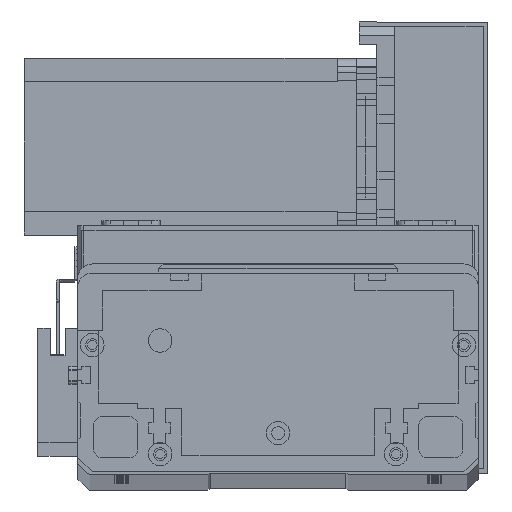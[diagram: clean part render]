
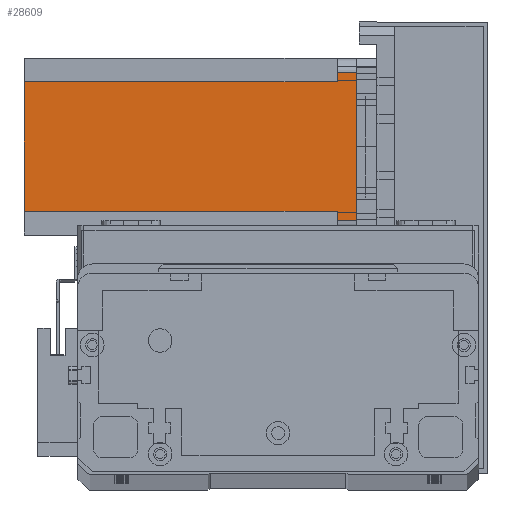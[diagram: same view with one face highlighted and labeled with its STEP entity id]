
A CAD part, top view. The second image highlights one B-rep face of the part: STEP entity #28609.
In plain terms, the highlighted planar face has unit normal (0, 0, 1) as drawn and (0, 1, 0) by its records, which use the part's own axes.
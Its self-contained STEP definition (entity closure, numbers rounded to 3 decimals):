
#491 = EDGE_CURVE ( 'NONE', #12000, #29842, #4071, .T. ) ;
#1222 = VECTOR ( 'NONE', #22207, 1000. ) ;
#1348 = EDGE_CURVE ( 'NONE', #3281, #12000, #28757, .T. ) ;
#1488 = VERTEX_POINT ( 'NONE', #13900 ) ;
#3011 = EDGE_CURVE ( 'NONE', #3281, #26812, #25737, .T. ) ;
#3281 = VERTEX_POINT ( 'NONE', #24831 ) ;
#3459 = EDGE_CURVE ( 'NONE', #26369, #26812, #26100, .T. ) ;
#3628 = ORIENTED_EDGE ( 'NONE', *, *, #18949, .F. ) ;
#3874 = LINE ( 'NONE', #18704, #8953 ) ;
#3885 = EDGE_CURVE ( 'NONE', #26369, #1488, #24250, .T. ) ;
#4015 = VECTOR ( 'NONE', #17550, 1000. ) ;
#4071 = LINE ( 'NONE', #10210, #16309 ) ;
#4588 = CARTESIAN_POINT ( 'NONE',  ( 8., 60., -6.5 ) ) ;
#4821 = ORIENTED_EDGE ( 'NONE', *, *, #30589, .T. ) ;
#5284 = EDGE_CURVE ( 'NONE', #1488, #7009, #3874, .T. ) ;
#5545 = ORIENTED_EDGE ( 'NONE', *, *, #491, .F. ) ;
#5619 = CARTESIAN_POINT ( 'NONE',  ( 52., 60., -6.5 ) ) ;
#6132 = ORIENTED_EDGE ( 'NONE', *, *, #1348, .F. ) ;
#6776 = VECTOR ( 'NONE', #30300, 1000. ) ;
#7009 = VERTEX_POINT ( 'NONE', #10713 ) ;
#7032 = ORIENTED_EDGE ( 'NONE', *, *, #3011, .T. ) ;
#7535 = ORIENTED_EDGE ( 'NONE', *, *, #3459, .F. ) ;
#7739 = EDGE_LOOP ( 'NONE', ( #3628, #4821, #5545, #6132, #7032, #7535, #7937, #8537 ) ) ;
#7937 = ORIENTED_EDGE ( 'NONE', *, *, #3885, .T. ) ;
#8060 = CARTESIAN_POINT ( 'NONE',  ( 55., 60., 0. ) ) ;
#8205 = CARTESIAN_POINT ( 'NONE',  ( 55., 60., -6.5 ) ) ;
#8537 = ORIENTED_EDGE ( 'NONE', *, *, #5284, .T. ) ;
#8953 = VECTOR ( 'NONE', #18643, 1000. ) ;
#8965 = PLANE ( 'NONE',  #30606 ) ;
#10210 = CARTESIAN_POINT ( 'NONE',  ( 52., 60., -6.5 ) ) ;
#10275 = DIRECTION ( 'NONE',  ( 1., 0., 0. ) ) ;
#10713 = CARTESIAN_POINT ( 'NONE',  ( 5., 60., 0. ) ) ;
#11439 = DIRECTION ( 'NONE',  ( 0., 1., 0. ) ) ;
#11689 = VECTOR ( 'NONE', #30665, 1000. ) ;
#12000 = VERTEX_POINT ( 'NONE', #5619 ) ;
#12407 = VECTOR ( 'NONE', #29648, 1000. ) ;
#13729 = CARTESIAN_POINT ( 'NONE',  ( 0., 60., -112.5 ) ) ;
#13900 = CARTESIAN_POINT ( 'NONE',  ( 5., 60., -6.5 ) ) ;
#16309 = VECTOR ( 'NONE', #10275, 1000. ) ;
#17048 = CARTESIAN_POINT ( 'NONE',  ( 8., 60., -6.5 ) ) ;
#17550 = DIRECTION ( 'NONE',  ( 0., 0., 1. ) ) ;
#18643 = DIRECTION ( 'NONE',  ( 0., 0., 1. ) ) ;
#18704 = CARTESIAN_POINT ( 'NONE',  ( 5., 60., -112.5 ) ) ;
#18949 = EDGE_CURVE ( 'NONE', #30456, #7009, #22748, .T. ) ;
#21485 = DIRECTION ( 'NONE',  ( -1., 0., 0. ) ) ;
#21965 = VECTOR ( 'NONE', #21485, 1000. ) ;
#22110 = CARTESIAN_POINT ( 'NONE',  ( 8., 60., -112.5 ) ) ;
#22207 = DIRECTION ( 'NONE',  ( 0., 0., -1. ) ) ;
#22748 = LINE ( 'NONE', #28642, #21965 ) ;
#23395 = FACE_OUTER_BOUND ( 'NONE', #7739, .T. ) ;
#24250 = LINE ( 'NONE', #4588, #11689 ) ;
#24514 = CARTESIAN_POINT ( 'NONE',  ( 52., 60., -112.5 ) ) ;
#24831 = CARTESIAN_POINT ( 'NONE',  ( 52., 60., -112.5 ) ) ;
#25737 = LINE ( 'NONE', #29446, #12407 ) ;
#25837 = LINE ( 'NONE', #28015, #6776 ) ;
#26100 = LINE ( 'NONE', #22110, #1222 ) ;
#26369 = VERTEX_POINT ( 'NONE', #17048 ) ;
#26812 = VERTEX_POINT ( 'NONE', #30534 ) ;
#27961 = DIRECTION ( 'NONE',  ( 0., 0., 1. ) ) ;
#28015 = CARTESIAN_POINT ( 'NONE',  ( 55., 60., -112.5 ) ) ;
#28609 = ADVANCED_FACE ( 'NONE', ( #23395 ), #8965, .T. ) ;
#28642 = CARTESIAN_POINT ( 'NONE',  ( 0., 60., 0. ) ) ;
#28757 = LINE ( 'NONE', #24514, #4015 ) ;
#29446 = CARTESIAN_POINT ( 'NONE',  ( 0., 60., -112.5 ) ) ;
#29648 = DIRECTION ( 'NONE',  ( -1., 0., 0. ) ) ;
#29842 = VERTEX_POINT ( 'NONE', #8205 ) ;
#30300 = DIRECTION ( 'NONE',  ( 0., 0., -1. ) ) ;
#30456 = VERTEX_POINT ( 'NONE', #8060 ) ;
#30534 = CARTESIAN_POINT ( 'NONE',  ( 8., 60., -112.5 ) ) ;
#30589 = EDGE_CURVE ( 'NONE', #30456, #29842, #25837, .T. ) ;
#30606 = AXIS2_PLACEMENT_3D ( 'NONE', #13729, #11439, #27961 ) ;
#30665 = DIRECTION ( 'NONE',  ( -1., 0., 0. ) ) ;
